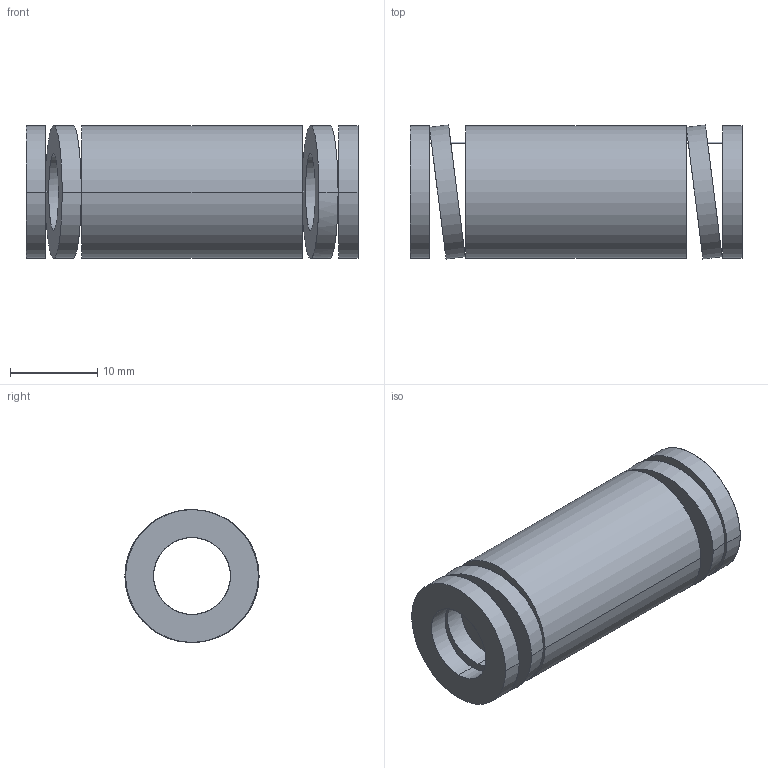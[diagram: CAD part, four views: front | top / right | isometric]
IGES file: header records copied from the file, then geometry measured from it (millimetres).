
Start section: START RECORD GO HERE.
Global section: file name: 392-B16-038.igs; native system: DASSAULT SYSTEMES CATIA V5 R20 - www.3ds.com; preprocessor: CATIA Version 5 Release 20 ; author: Utente; organization: NB04-ASUS; date: 20210812.160752; units: millimetre
Bounding box: 38 x 15.36 x 15.2 mm (x, y, z)
Surface area: 3771.2 mm2 (no closed solid volume)
Topology: 0 solids, 0 shells, 38 faces, 184 edges, 184 vertices
Faces by surface type: revolution 28, plane 10
